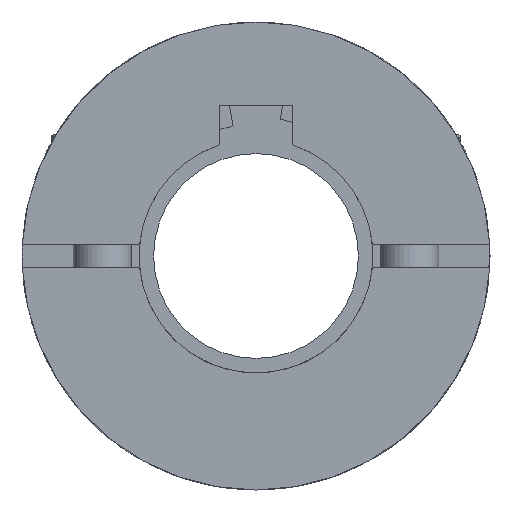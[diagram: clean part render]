
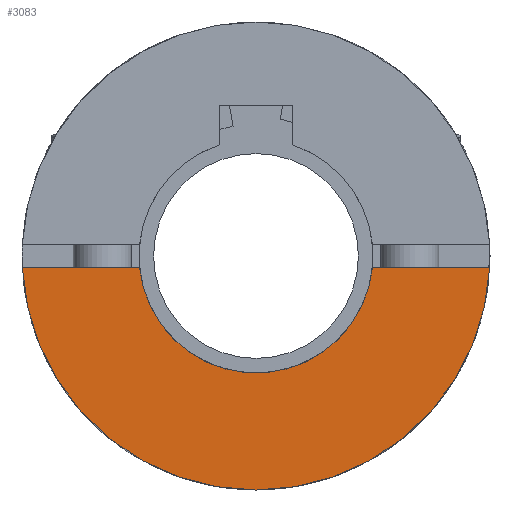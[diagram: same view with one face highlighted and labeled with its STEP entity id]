
A CAD part, left-side view. The second image highlights one B-rep face of the part: STEP entity #3083.
In plain terms, the highlighted planar face has unit normal (-1, 0, 0).
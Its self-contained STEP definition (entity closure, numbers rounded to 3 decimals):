
#125=PLANE('',#3433);
#318=FACE_OUTER_BOUND('',#498,.T.);
#498=EDGE_LOOP('',(#2573,#2574,#2575,#2576));
#694=LINE('',#4847,#967);
#742=LINE('',#5212,#1015);
#967=VECTOR('',#3893,1000.);
#1015=VECTOR('',#4109,1000.);
#1184=CIRCLE('',#3331,8.);
#1240=CIRCLE('',#3413,16.);
#1390=VERTEX_POINT('',#4779);
#1391=VERTEX_POINT('',#4780);
#1416=VERTEX_POINT('',#4845);
#1479=VERTEX_POINT('',#5163);
#1743=EDGE_CURVE('',#1390,#1391,#1184,.T.);
#1777=EDGE_CURVE('',#1416,#1391,#694,.T.);
#1861=EDGE_CURVE('',#1416,#1479,#1240,.T.);
#1881=EDGE_CURVE('',#1390,#1479,#742,.T.);
#2573=ORIENTED_EDGE('',*,*,#1743,.T.);
#2574=ORIENTED_EDGE('',*,*,#1777,.F.);
#2575=ORIENTED_EDGE('',*,*,#1861,.T.);
#2576=ORIENTED_EDGE('',*,*,#1881,.F.);
#3083=ADVANCED_FACE('',(#318),#125,.F.);
#3331=AXIS2_PLACEMENT_3D('',#4781,#3834,#3835);
#3413=AXIS2_PLACEMENT_3D('',#5165,#4052,#4053);
#3433=AXIS2_PLACEMENT_3D('',#5213,#4110,#4111);
#3834=DIRECTION('center_axis',(1.,0.,0.));
#3835=DIRECTION('ref_axis',(0.,0.,1.));
#3893=DIRECTION('',(0.,-1.,0.));
#4052=DIRECTION('center_axis',(-1.,0.,0.));
#4053=DIRECTION('ref_axis',(0.,-1.,0.));
#4109=DIRECTION('',(0.,-1.,0.));
#4110=DIRECTION('center_axis',(1.,0.,0.));
#4111=DIRECTION('ref_axis',(0.,0.,-1.));
#4779=CARTESIAN_POINT('',(0.,-7.96,-0.8));
#4780=CARTESIAN_POINT('',(0.,7.96,-0.8));
#4781=CARTESIAN_POINT('Origin',(0.,0.,0.));
#4845=CARTESIAN_POINT('',(0.,15.98,-0.8));
#4847=CARTESIAN_POINT('',(0.,17.226,-0.8));
#5163=CARTESIAN_POINT('',(0.,-15.98,-0.8));
#5165=CARTESIAN_POINT('Origin',(0.,0.,0.));
#5212=CARTESIAN_POINT('',(0.,17.226,-0.8));
#5213=CARTESIAN_POINT('Origin',(0.,0.,16.));
